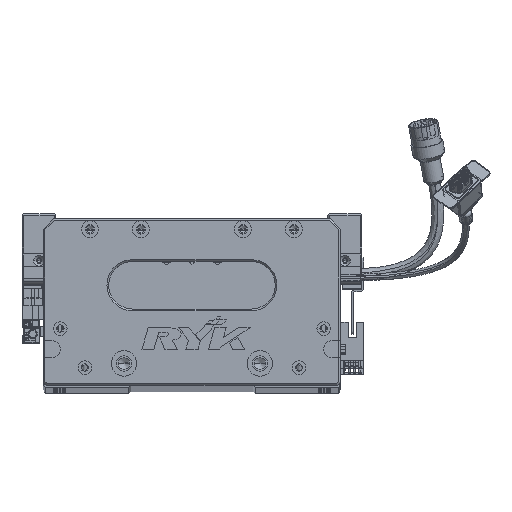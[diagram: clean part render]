
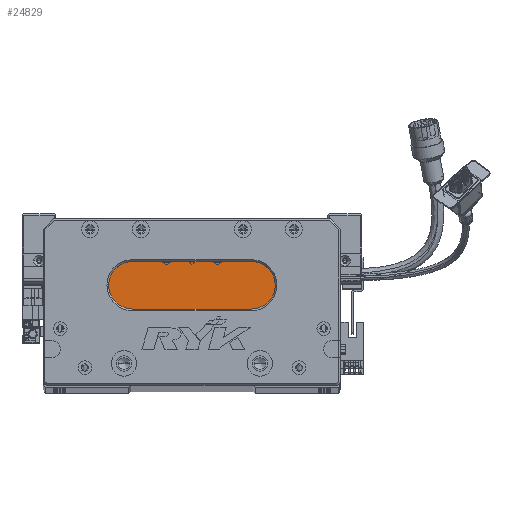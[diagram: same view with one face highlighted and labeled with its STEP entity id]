
A CAD part, top view. The second image highlights one B-rep face of the part: STEP entity #24829.
In plain terms, the highlighted planar face has unit normal (0, 0, 1) as drawn and (0, 0, -1) by its records, which use the part's own axes.
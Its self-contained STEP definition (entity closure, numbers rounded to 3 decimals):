
#2616 = DIRECTION ( 'NONE',  ( -1., 0., 0. ) ) ;
#11260 = ORIENTED_EDGE ( 'NONE', *, *, #82873, .T. ) ;
#12426 = ORIENTED_EDGE ( 'NONE', *, *, #98176, .T. ) ;
#13595 = CARTESIAN_POINT ( 'NONE',  ( 122.5, 73., 18. ) ) ;
#13638 = VERTEX_POINT ( 'NONE', #13595 ) ;
#18523 = ORIENTED_EDGE ( 'NONE', *, *, #35393, .T. ) ;
#20892 = DIRECTION ( 'NONE',  ( -1., 0., 0. ) ) ;
#22990 = FACE_OUTER_BOUND ( 'NONE', #69147, .T. ) ;
#23605 = DIRECTION ( 'NONE',  ( -1., 0., 0. ) ) ;
#24829 = ADVANCED_FACE ( 'NONE', ( #22990 ), #103566, .T. ) ;
#29701 = DIRECTION ( 'NONE',  ( 0., 0., -1. ) ) ;
#33463 = CIRCLE ( 'NONE', #46150, 14. ) ;
#33512 = AXIS2_PLACEMENT_3D ( 'NONE', #91223, #65239, #38505 ) ;
#33687 = ORIENTED_EDGE ( 'NONE', *, *, #35720, .T. ) ;
#35393 = EDGE_CURVE ( 'NONE', #92481, #94608, #86554, .T. ) ;
#35720 = EDGE_CURVE ( 'NONE', #72566, #92481, #46774, .T. ) ;
#38505 = DIRECTION ( 'NONE',  ( -1., 0., 0. ) ) ;
#38593 = DIRECTION ( 'NONE',  ( 0., 0., -1. ) ) ;
#41680 = ORIENTED_EDGE ( 'NONE', *, *, #58092, .T. ) ;
#42317 = DIRECTION ( 'NONE',  ( 0., 0., -1. ) ) ;
#46150 = AXIS2_PLACEMENT_3D ( 'NONE', #56048, #29701, #2616 ) ;
#46774 = LINE ( 'NONE', #54918, #71432 ) ;
#54918 = CARTESIAN_POINT ( 'NONE',  ( 122.5, 45., 18. ) ) ;
#56048 = CARTESIAN_POINT ( 'NONE',  ( 122.5, 59., 18. ) ) ;
#58092 = EDGE_CURVE ( 'NONE', #94608, #86896, #65274, .T. ) ;
#58397 = CARTESIAN_POINT ( 'NONE',  ( 122.5, 59., 18. ) ) ;
#65239 = DIRECTION ( 'NONE',  ( 0., 0., -1. ) ) ;
#65274 = CIRCLE ( 'NONE', #33512, 14. ) ;
#68001 = AXIS2_PLACEMENT_3D ( 'NONE', #58397, #42317, #23605 ) ;
#69106 = CARTESIAN_POINT ( 'NONE',  ( 122.5, 73., 18. ) ) ;
#69147 = EDGE_LOOP ( 'NONE', ( #12426, #33687, #18523, #41680, #11260 ) ) ;
#71432 = VECTOR ( 'NONE', #20892, 1000. ) ;
#72566 = VERTEX_POINT ( 'NONE', #76598 ) ;
#76557 = CARTESIAN_POINT ( 'NONE',  ( 52.5, 45., 18. ) ) ;
#76598 = CARTESIAN_POINT ( 'NONE',  ( 122.5, 45., 18. ) ) ;
#78244 = DIRECTION ( 'NONE',  ( 1., 0., 0. ) ) ;
#82873 = EDGE_CURVE ( 'NONE', #86896, #13638, #89813, .T. ) ;
#86197 = AXIS2_PLACEMENT_3D ( 'NONE', #92466, #38593, #99421 ) ;
#86554 = CIRCLE ( 'NONE', #86197, 14. ) ;
#86896 = VERTEX_POINT ( 'NONE', #105072 ) ;
#89813 = LINE ( 'NONE', #69106, #104945 ) ;
#91223 = CARTESIAN_POINT ( 'NONE',  ( 52.5, 59., 18. ) ) ;
#92466 = CARTESIAN_POINT ( 'NONE',  ( 52.5, 59., 18. ) ) ;
#92481 = VERTEX_POINT ( 'NONE', #76557 ) ;
#94608 = VERTEX_POINT ( 'NONE', #100893 ) ;
#98176 = EDGE_CURVE ( 'NONE', #13638, #72566, #33463, .T. ) ;
#99421 = DIRECTION ( 'NONE',  ( -1., 0., 0. ) ) ;
#100893 = CARTESIAN_POINT ( 'NONE',  ( 38.5, 59., 18. ) ) ;
#103566 = PLANE ( 'NONE',  #68001 ) ;
#104945 = VECTOR ( 'NONE', #78244, 1000. ) ;
#105072 = CARTESIAN_POINT ( 'NONE',  ( 52.5, 73., 18. ) ) ;
